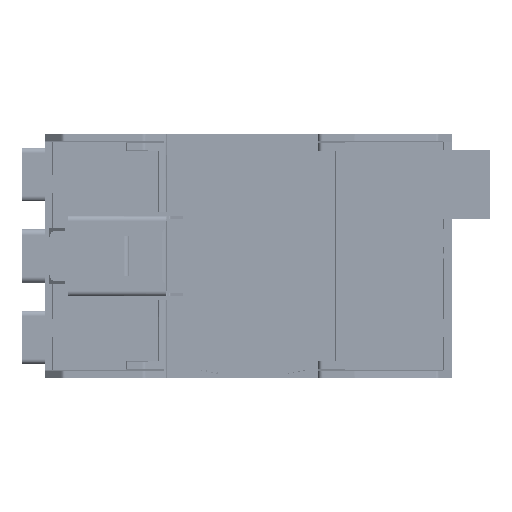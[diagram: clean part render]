
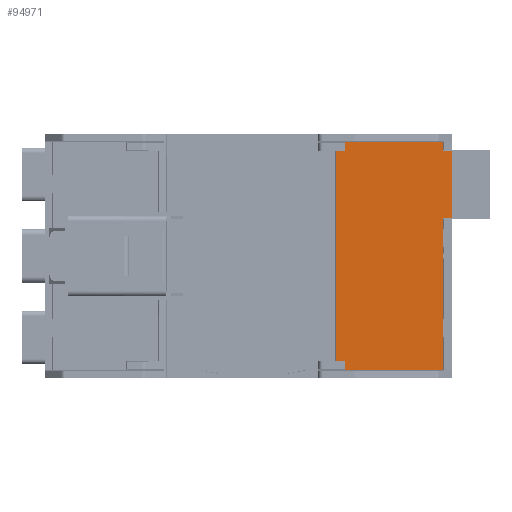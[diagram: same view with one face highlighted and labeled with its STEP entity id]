
A CAD part, front view. The second image highlights one B-rep face of the part: STEP entity #94971.
In plain terms, the highlighted planar face has unit normal (0, -1, 0).
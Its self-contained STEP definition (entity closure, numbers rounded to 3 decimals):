
#18951=DIRECTION('',(-1.,0.,0.));
#18952=VECTOR('',#18951,21.678);
#18953=CARTESIAN_POINT('',(43.1,-26.25,34.1));
#18954=LINE('',#18953,#18952);
#18955=DIRECTION('',(0.,0.,1.));
#18956=VECTOR('',#18955,1.93);
#18957=CARTESIAN_POINT('',(43.1,-26.25,32.17));
#18958=LINE('',#18957,#18956);
#18959=DIRECTION('',(-1.,0.,0.));
#18960=VECTOR('',#18959,1.82);
#18961=CARTESIAN_POINT('',(44.92,-26.25,32.17));
#18962=LINE('',#18961,#18960);
#18963=DIRECTION('',(0.,0.,1.));
#18964=VECTOR('',#18963,14.84);
#18965=CARTESIAN_POINT('',(44.92,-26.25,17.33));
#18966=LINE('',#18965,#18964);
#18967=DIRECTION('',(1.,0.,0.));
#18968=VECTOR('',#18967,1.82);
#18969=CARTESIAN_POINT('',(43.1,-26.25,17.33));
#18970=LINE('',#18969,#18968);
#18971=DIRECTION('',(0.,0.,1.));
#18972=VECTOR('',#18971,33.43);
#18973=CARTESIAN_POINT('',(43.1,-26.25,-16.1));
#18974=LINE('',#18973,#18972);
#18975=DIRECTION('',(1.,0.,0.));
#18976=VECTOR('',#18975,21.678);
#18977=CARTESIAN_POINT('',(21.422,-26.25,-16.1));
#18978=LINE('',#18977,#18976);
#18979=DIRECTION('',(-1.,0.,0.));
#18980=VECTOR('',#18979,2.122);
#18981=CARTESIAN_POINT('',(21.422,-26.25,32.2));
#18982=LINE('',#18981,#18980);
#18995=DIRECTION('',(0.,0.,1.));
#18996=VECTOR('',#18995,46.4);
#18997=CARTESIAN_POINT('',(19.3,-26.25,-14.2));
#18998=LINE('',#18997,#18996);
#19011=DIRECTION('',(-1.,0.,0.));
#19012=VECTOR('',#19011,2.122);
#19013=CARTESIAN_POINT('',(21.422,-26.25,-14.2));
#19014=LINE('',#19013,#19012);
#19019=DIRECTION('',(0.,0.,-1.));
#19020=VECTOR('',#19019,1.9);
#19021=CARTESIAN_POINT('',(21.422,-26.25,-14.2));
#19022=LINE('',#19021,#19020);
#19031=DIRECTION('',(0.,0.,1.));
#19032=VECTOR('',#19031,1.9);
#19033=CARTESIAN_POINT('',(21.422,-26.25,32.2));
#19034=LINE('',#19033,#19032);
#57186=CARTESIAN_POINT('',(43.1,-26.25,34.1));
#57187=VERTEX_POINT('',#57186);
#57188=CARTESIAN_POINT('',(21.422,-26.25,34.1));
#57189=VERTEX_POINT('',#57188);
#57234=CARTESIAN_POINT('',(43.1,-26.25,-16.1));
#57235=VERTEX_POINT('',#57234);
#57236=CARTESIAN_POINT('',(21.422,-26.25,-16.1));
#57237=VERTEX_POINT('',#57236);
#58131=CARTESIAN_POINT('',(43.1,-26.25,32.17));
#58132=VERTEX_POINT('',#58131);
#58133=CARTESIAN_POINT('',(44.92,-26.25,32.17));
#58134=VERTEX_POINT('',#58133);
#58135=CARTESIAN_POINT('',(44.92,-26.25,17.33));
#58136=VERTEX_POINT('',#58135);
#58137=CARTESIAN_POINT('',(43.1,-26.25,17.33));
#58138=VERTEX_POINT('',#58137);
#58147=CARTESIAN_POINT('',(21.422,-26.25,32.2));
#58148=CARTESIAN_POINT('',(19.3,-26.25,32.2));
#58149=VERTEX_POINT('',#58147);
#58150=VERTEX_POINT('',#58148);
#58151=CARTESIAN_POINT('',(21.422,-26.25,-14.2));
#58152=VERTEX_POINT('',#58151);
#58153=CARTESIAN_POINT('',(19.3,-26.25,-14.2));
#58154=VERTEX_POINT('',#58153);
#94943=CARTESIAN_POINT('',(32.11,-26.25,9.));
#94944=DIRECTION('',(0.,1.,0.));
#94945=DIRECTION('',(1.,0.,0.));
#94946=AXIS2_PLACEMENT_3D('',#94943,#94944,#94945);
#94947=PLANE('',#94946);
#94949=ORIENTED_EDGE('',*,*,#94948,.F.);
#94951=ORIENTED_EDGE('',*,*,#94950,.T.);
#94952=ORIENTED_EDGE('',*,*,#91945,.F.);
#94954=ORIENTED_EDGE('',*,*,#94953,.F.);
#94956=ORIENTED_EDGE('',*,*,#94955,.F.);
#94958=ORIENTED_EDGE('',*,*,#94957,.F.);
#94960=ORIENTED_EDGE('',*,*,#94959,.F.);
#94961=ORIENTED_EDGE('',*,*,#94926,.F.);
#94962=ORIENTED_EDGE('',*,*,#92085,.F.);
#94964=ORIENTED_EDGE('',*,*,#94963,.F.);
#94966=ORIENTED_EDGE('',*,*,#94965,.T.);
#94968=ORIENTED_EDGE('',*,*,#94967,.T.);
#94969=EDGE_LOOP('',(#94949,#94951,#94952,#94954,#94956,#94958,#94960,#94961,
#94962,#94964,#94966,#94968));
#94970=FACE_OUTER_BOUND('',#94969,.F.);
#94971=ADVANCED_FACE('',(#94970),#94947,.F.);
#91945=EDGE_CURVE('',#57187,#57189,#18954,.T.);
#92085=EDGE_CURVE('',#57237,#57235,#18978,.T.);
#94926=EDGE_CURVE('',#57235,#58138,#18974,.T.);
#94948=EDGE_CURVE('',#58149,#58150,#18982,.T.);
#94950=EDGE_CURVE('',#58149,#57189,#19034,.T.);
#94953=EDGE_CURVE('',#58132,#57187,#18958,.T.);
#94955=EDGE_CURVE('',#58134,#58132,#18962,.T.);
#94957=EDGE_CURVE('',#58136,#58134,#18966,.T.);
#94959=EDGE_CURVE('',#58138,#58136,#18970,.T.);
#94963=EDGE_CURVE('',#58152,#57237,#19022,.T.);
#94965=EDGE_CURVE('',#58152,#58154,#19014,.T.);
#94967=EDGE_CURVE('',#58154,#58150,#18998,.T.);
